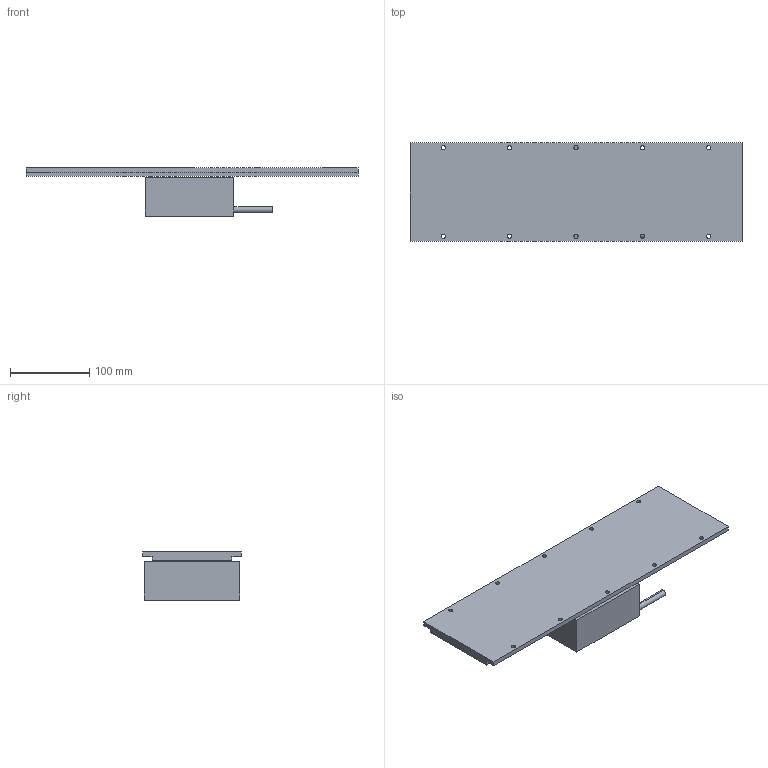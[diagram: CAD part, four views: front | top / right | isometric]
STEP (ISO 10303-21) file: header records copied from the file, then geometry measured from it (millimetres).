
FILE_DESCRIPTION (( 'STEP AP214' ), '1' );
FILE_NAME ('FLM-121-112蚾饜极.STEP', '2022-05-12T08:06:21', ( 'Microsoft' ), ( 'Microsoft' ), 'SwSTEP 2.0', 'SolidWorks 2016', '' );
FILE_SCHEMA (( 'AUTOMOTIVE_DESIGN' ));
Length unit declared in the file: millimetre
Products named in the file (3): FLM-121-112蚾饜极; TLM-125-L420; FLM-121-112
Assembly tree (2 placements, depth 2):
  FLM-121-112蚾饜极
    FLM-121-112
    TLM-125-L420
Bounding box: 420 x 125 x 61.1 mm (x, y, z)
Volume: 1186706.4 mm3; surface area: 169297.1 mm2
Topology: 2 solids, 2 shells, 123 faces, 288 edges, 171 vertices
Faces by surface type: cylinder 60, cone 36, plane 27
Entity records: 3754 total; most frequent: DIRECTION 664, CARTESIAN_POINT 569, ORIENTED_EDGE 540, EDGE_CURVE 270, AXIS2_PLACEMENT_3D 266, VERTEX_POINT 171, EDGE_LOOP 163, CIRCLE 138
